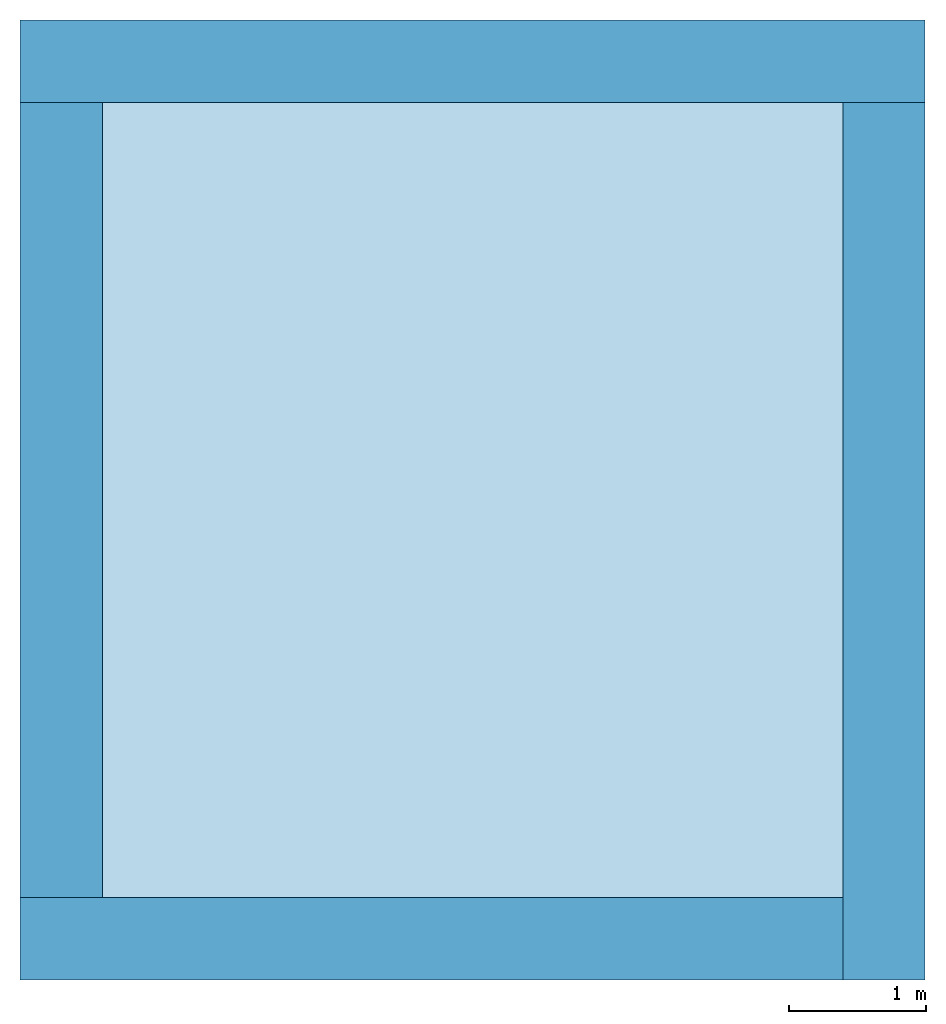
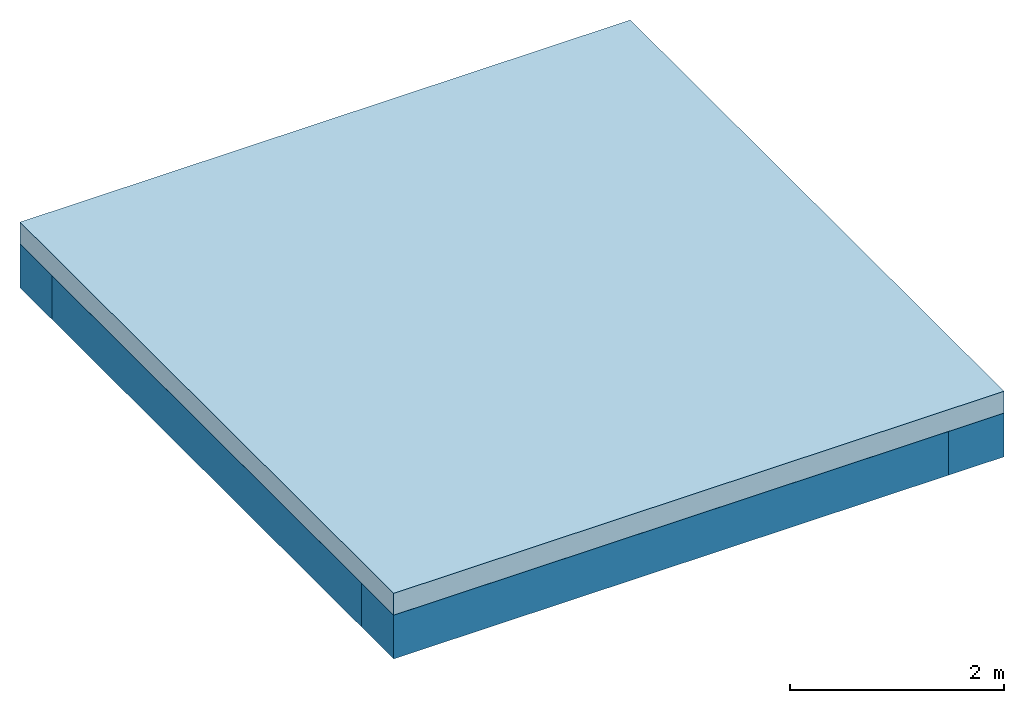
# One storey: 4 walls, 1 slab.
"""IFC2X3 building model written with IfcOpenShell, lengths in metres."""

import ifcopenshell
import ifcopenshell.guid

model = None  # the IFC model being written
_history = None  # IfcOwnerHistory: only IFC2X3 demands one
_inside = {}  # id of a spatial element -> (the spatial element, [elements in it])
_under = {}  # id of a project, library or spatial element -> (it, [spatial elements below it])
_declared = {}  # id of a project -> (the project, [libraries it declares])
_typed = {}  # id of a type object -> (the type object, [elements of that type])
_made_of = {}  # id of a material, layer set ... -> (it, [elements and type objects made of it])


def new_model(schema):
    """Start an empty IFC model of exactly this schema.

    Asked for "IFC4X3", IfcOpenShell would pick the latest addendum, in which some entities
    have other attributes; the version numbers below select the first issue.
    IFC2X3 requires an IfcOwnerHistory on every rooted entity: one is made here for all.
    """
    global model, _history
    if schema == "IFC4X3":
        model = ifcopenshell.file(schema_version=(4, 3, 0, 0))
    else:
        model = ifcopenshell.file(schema=schema)
    _inside.clear()
    _under.clear()
    _declared.clear()
    _typed.clear()
    _made_of.clear()
    _history = None
    if model.schema == "IFC2X3":
        org = make("IfcOrganization", Name="unknown")
        user = make(
            "IfcPersonAndOrganization",
            ThePerson=make("IfcPerson", FamilyName="unknown"),
            TheOrganization=org,
        )
        app = make(
            "IfcApplication",
            ApplicationDeveloper=org,
            Version="unknown",
            ApplicationFullName="unknown",
            ApplicationIdentifier="unknown",
        )
        _history = make(
            "IfcOwnerHistory",
            OwningUser=user,
            OwningApplication=app,
            ChangeAction="ADDED",
            CreationDate=0,
        )
    return model


def make(cls, **values):
    """One entity of the class cls with the attributes given. An attribute that is None is left unset."""
    return model.create_entity(
        cls, **{name: value for name, value in values.items() if value is not None}
    )


def entity(cls, *values):
    """Any entity or typed value of the class cls, its attributes in the order of the schema. None: left unset."""
    e = model.create_entity(cls)
    for i, value in enumerate(values):
        if value is not None:
            e[i] = value
    return e


def rooted(cls, **values):
    """An entity with a GlobalId (a new one), such as an element, a storey or a relation."""
    return make(cls, GlobalId=ifcopenshell.guid.new(), OwnerHistory=_history, **values)


def si_unit(unit_type, name, prefix=None):
    """IfcSIUnit, for example si_unit("LENGTHUNIT", "METRE", prefix="MILLI")."""
    return make("IfcSIUnit", UnitType=unit_type, Prefix=prefix, Name=name)


def converted_unit(unit_type, name, factor, base, dimensions=None, offset=None):
    """IfcConversionBasedUnit, such as the inch: factor (a typed value) times the base unit."""
    return make(
        "IfcConversionBasedUnit"
        if offset is None
        else "IfcConversionBasedUnitWithOffset",
        ConversionOffset=offset,
        Dimensions=None
        if dimensions is None
        else entity("IfcDimensionalExponents", *dimensions),
        UnitType=unit_type,
        Name=name,
        ConversionFactor=make(
            "IfcMeasureWithUnit", ValueComponent=factor, UnitComponent=base
        ),
    )


def derived_unit(unit_type, elements):
    """IfcDerivedUnit: a product of units, each with its exponent."""
    return make(
        "IfcDerivedUnit",
        Elements=[
            make("IfcDerivedUnitElement", Unit=unit, Exponent=power)
            for unit, power in elements
        ],
        UnitType=unit_type,
    )


def assignment(units):
    """IfcUnitAssignment: the units of a project."""
    return None if units is None else make("IfcUnitAssignment", Units=units)


def point(xyz):
    """IfcCartesianPoint."""
    return None if xyz is None else make("IfcCartesianPoint", Coordinates=xyz)


def direction(xyz):
    """IfcDirection."""
    return None if xyz is None else make("IfcDirection", DirectionRatios=xyz)


def frame(location, z_axis=None, x_axis=None):
    """IfcAxis2Placement3D, a coordinate frame: its origin and axes. An axis left out is left unset."""
    return make(
        "IfcAxis2Placement3D",
        Location=point(location),
        Axis=direction(z_axis),
        RefDirection=direction(x_axis),
    )


def frame_2d(location, x_axis=None):
    """IfcAxis2Placement2D, a coordinate frame in the plane: its origin and x axis."""
    return make(
        "IfcAxis2Placement2D", Location=point(location), RefDirection=direction(x_axis)
    )


def origin():
    """The frame at (0, 0, 0) with its axes left unset."""
    return frame((0.0, 0.0, 0.0))


def place(relative_to, where):
    """IfcLocalPlacement: puts the frame where relative to a parent placement (None: the world)."""
    return make(
        "IfcLocalPlacement", PlacementRelTo=relative_to, RelativePlacement=where
    )


def context(
    kind, dimensions, precision=None, world=None, true_north=None, identifier=None
):
    """IfcGeometricRepresentationContext, for example the 3D "Model" context."""
    return make(
        "IfcGeometricRepresentationContext",
        ContextIdentifier=identifier,
        ContextType=kind,
        CoordinateSpaceDimension=dimensions,
        Precision=precision,
        WorldCoordinateSystem=world,
        TrueNorth=true_north,
    )


def subcontext(parent, identifier, kind, view, scale=None):
    """IfcGeometricRepresentationSubContext, for example "Body" below "Model"."""
    return make(
        "IfcGeometricRepresentationSubContext",
        ContextIdentifier=identifier,
        ContextType=kind,
        ParentContext=parent,
        TargetScale=scale,
        TargetView=view,
    )


def project(units=None, contexts=None):
    """IfcProject with its units and contexts."""
    return rooted(
        "IfcProject",
        Name="project",
        RepresentationContexts=contexts,
        UnitsInContext=assignment(units),
    )


def spatial(cls, under=None, at=None, **own):
    """A site, building, storey or space (cls), placed at a placement, below another one or the project."""
    s = rooted(cls, ObjectPlacement=at, **own)
    if under is not None:
        _under.setdefault(under.id(), (under, []))[1].append(s)
    return s


def profile(cls, at=None, kind="AREA", **sizes):
    """A parametric profile (cls). Its sizes go by their IFC names, for example OverallWidth=200.0."""
    return make(cls, ProfileType=kind, Position=at, **sizes)


def rectangle(**sizes):
    """IfcRectangleProfileDef."""
    return profile("IfcRectangleProfileDef", **sizes)


def extrude(swept, where, along, depth):
    """IfcExtrudedAreaSolid: the profile swept, set in the frame where, extruded along a direction by depth."""
    return make(
        "IfcExtrudedAreaSolid",
        SweptArea=swept,
        Position=where,
        ExtrudedDirection=direction(along),
        Depth=depth,
    )


def shape(context_of_items, identifier, shape_type, items):
    """IfcShapeRepresentation: the items that make up one representation, for example the "Body"."""
    return make(
        "IfcShapeRepresentation",
        ContextOfItems=context_of_items,
        RepresentationIdentifier=identifier,
        RepresentationType=shape_type,
        Items=items,
    )


def material(Name=None, Category=None):
    """IfcMaterial."""
    return make("IfcMaterial", Name=Name, Category=Category)


def layer(
    of_material, thickness, ventilated=None, Name=None, Category=None, Priority=None
):
    """IfcMaterialLayer: one layer of a wall or slab, of a material (None: an air gap)."""
    return make(
        "IfcMaterialLayer",
        Material=of_material,
        LayerThickness=thickness,
        IsVentilated=ventilated,
        Name=Name,
        Category=Category,
        Priority=Priority,
    )


def layer_set(layers, Name=None):
    """IfcMaterialLayerSet."""
    return make("IfcMaterialLayerSet", MaterialLayers=layers, LayerSetName=Name)


def layer_usage(for_layer_set, set_direction, sense, offset, extent=None):
    """IfcMaterialLayerSetUsage: how a layer set lies in its element."""
    return make(
        "IfcMaterialLayerSetUsage",
        ForLayerSet=for_layer_set,
        LayerSetDirection=set_direction,
        DirectionSense=sense,
        OffsetFromReferenceLine=offset,
        ReferenceExtent=extent,
    )


def made_of(thing, what):
    """Note that an element or type object is made of a material, layer set ...; save() writes the relation."""
    if what is not None:
        _made_of.setdefault(what.id(), (what, []))[1].append(thing)
    return thing


def type_object(cls, material=None, **own):
    """A type object (cls), such as IfcWallType, which elements share."""
    return made_of(rooted(cls, **own), material)


def element(
    cls,
    number,
    at=None,
    inside=None,
    cuts=None,
    type_object=None,
    material=None,
    context=None,
    identifier="Body",
    shape_type=None,
    held_by="IfcProductDefinitionShape",
    body=None,
    shapes=None,
    **own,
):
    """One element of the class cls, such as IfcWall. Its Tag is "e" and its number.

    at: its placement. inside: the storey or other place that contains it. cuts: it is an
    opening in that element (IfcRelVoidsElement). A single representation is given by context,
    identifier, shape_type and body (its items); several are given by shapes. held_by: the class
    of the entity that holds the representations. save() writes the other relations.
    """
    e = rooted(cls, Tag="e%d" % number, ObjectPlacement=at, **own)
    if body is not None:
        shapes = [shape(context, identifier, shape_type, body)]
    if shapes is not None:
        e.Representation = make(held_by, Representations=shapes)
    if inside is not None:
        _inside.setdefault(inside.id(), (inside, []))[1].append(e)
    if cuts is not None:
        rooted(
            "IfcRelVoidsElement", RelatingBuildingElement=cuts, RelatedOpeningElement=e
        )
    if type_object is not None:
        _typed.setdefault(type_object.id(), (type_object, []))[1].append(e)
    return made_of(e, material)


def aggregate(whole, parts):
    """IfcRelAggregates: a whole, such as a stair, and the parts it consists of."""
    return rooted("IfcRelAggregates", RelatingObject=whole, RelatedObjects=parts)


def save(model, path):
    """Write the relations noted so far, then the file.

    IfcRelAggregates (storeys below a building ...), IfcRelContainedInSpatialStructure (elements
    in a storey), IfcRelDefinesByType, IfcRelAssociatesMaterial and IfcRelDeclares: one each for
    every whole, place, type object, material and project.
    """
    for whole, parts in _under.values():
        aggregate(whole, parts)
    for where, things in _inside.values():
        rooted(
            "IfcRelContainedInSpatialStructure",
            RelatedElements=things,
            RelatingStructure=where,
        )
    for kind, things in _typed.values():
        rooted("IfcRelDefinesByType", RelatedObjects=things, RelatingType=kind)
    for what, things in _made_of.values():
        rooted("IfcRelAssociatesMaterial", RelatedObjects=things, RelatingMaterial=what)
    for by, libraries in _declared.values():
        rooted("IfcRelDeclares", RelatingContext=by, RelatedDefinitions=libraries)
    model.write(path)


model = new_model("IFC2X3")

# Units and contexts
model_context = context("Model", 3, precision=1e-05, world=origin(), true_north=direction((6.12303176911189e-17, 1.0)))
body_context = subcontext(model_context, "Body", "Model", "MODEL_VIEW")
ifc_project = project(units=[si_unit("LENGTHUNIT", "METRE"), si_unit("AREAUNIT", "SQUARE_METRE"), si_unit("VOLUMEUNIT", "CUBIC_METRE"), converted_unit("PLANEANGLEUNIT", "DEGREE", entity("IfcRatioMeasure", 0.0174532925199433), si_unit("PLANEANGLEUNIT", "RADIAN"), dimensions=[0, 0, 0, 0, 0, 0, 0]), si_unit("MASSUNIT", "GRAM", prefix="KILO"), si_unit("TIMEUNIT", "SECOND"), si_unit("FREQUENCYUNIT", "HERTZ"), si_unit("THERMODYNAMICTEMPERATUREUNIT", "DEGREE_CELSIUS"), derived_unit("THERMALTRANSMITTANCEUNIT", [(si_unit("MASSUNIT", "GRAM", prefix="KILO"), 1), (si_unit("THERMODYNAMICTEMPERATUREUNIT", "KELVIN"), -1), (si_unit("TIMEUNIT", "SECOND"), -3)]), derived_unit("VOLUMETRICFLOWRATEUNIT", [(si_unit("LENGTHUNIT", "METRE"), 3), (si_unit("TIMEUNIT", "SECOND"), -1)]), si_unit("ELECTRICCURRENTUNIT", "AMPERE"), si_unit("ELECTRICVOLTAGEUNIT", "VOLT"), si_unit("POWERUNIT", "WATT"), si_unit("FORCEUNIT", "NEWTON", prefix="KILO"), si_unit("ILLUMINANCEUNIT", "LUX"), si_unit("LUMINOUSFLUXUNIT", "LUMEN"), si_unit("LUMINOUSINTENSITYUNIT", "CANDELA"), derived_unit("USERDEFINED", [(si_unit("MASSUNIT", "GRAM", prefix="KILO"), -1), (si_unit("LENGTHUNIT", "METRE"), -2), (si_unit("TIMEUNIT", "SECOND"), 3), (si_unit("LUMINOUSFLUXUNIT", "LUMEN"), 1)]), derived_unit("LINEARVELOCITYUNIT", [(si_unit("LENGTHUNIT", "METRE"), 1), (si_unit("TIMEUNIT", "SECOND"), -1)]), si_unit("PRESSUREUNIT", "PASCAL"), derived_unit("USERDEFINED", [(si_unit("LENGTHUNIT", "METRE"), -2), (si_unit("MASSUNIT", "GRAM", prefix="KILO"), 1), (si_unit("TIMEUNIT", "SECOND"), -2)])], contexts=[model_context])

# Site, building, storey
site_placement = place(None, origin())
site = spatial("IfcSite", under=ifc_project, at=site_placement, Name="Surface", CompositionType="ELEMENT")
building_placement = place(site_placement, origin())
building = spatial("IfcBuilding", under=site, at=building_placement, CompositionType="ELEMENT")
storey_placement = place(building_placement, frame((0.0, 0.0, -0.75)))
storey = spatial("IfcBuildingStorey", under=building, at=storey_placement, Name="Plan de soubassement", CompositionType="ELEMENT", Elevation=-0.75)

# Slab
ifc_material_1 = material(Name="Maçonnerie - Béton")
ifc_layer_1 = layer(ifc_material_1, 0.25)
ifc_layer_set_1 = layer_set([ifc_layer_1], Name="Sol:Dalle en béton - 250 mm")
ifc_layer_usage_1 = layer_usage(ifc_layer_set_1, "AXIS3", "POSITIVE", 0.0)
slab_placement = place(storey_placement, origin())
element("IfcSlab", 1, at=slab_placement, inside=storey, material=ifc_layer_usage_1, Name="Sol:Dalle en béton - 250 mm", ObjectType="Sol:Dalle en béton - 250 mm", PredefinedType="FLOOR", context=body_context, shape_type="SweptSolid", body=[
    extrude(rectangle(XDim=6.99999999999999, YDim=6.6, at=frame_2d((3.33066907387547e-15, 3.77475828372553e-15), x_axis=(1.0, 0.0))), frame((-6.62801835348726, -0.804867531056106, 0.75), z_axis=(0.0, 0.0, -1.0), x_axis=(0.0, 1.0, 0.0)), (0.0, 0.0, 1.0), 0.25),
])

# Walls
ifc_material_2 = material(Name="FONDATIONS")
ifc_layer_2 = layer(ifc_material_2, 0.6)
ifc_layer_set_2 = layer_set([ifc_layer_2], Name="Mur de base:fond 60 cm")
ifc_layer_usage_2 = layer_usage(ifc_layer_set_2, "AXIS2", "NEGATIVE", 0.3)
wall_type = type_object("IfcWallType", Name="Mur de base:fond 60 cm", PredefinedType="STANDARD", material=ifc_layer_set_2)
wall_1_placement = place(storey_placement, frame((-9.92801835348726, 2.3951324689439, 0.0)))
element("IfcWallStandardCase", 2, at=wall_1_placement, inside=storey, type_object=wall_type, material=ifc_layer_usage_2, Name="Mur de base:fond 60 cm", ObjectType="Mur de base:fond 60 cm", context=body_context, shape_type="SweptSolid", body=[
    extrude(rectangle(XDim=6.60000000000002, YDim=0.6, at=frame_2d((3.30000000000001, 0.0), x_axis=(-1.0, 0.0))), origin(), (0.0, 0.0, 1.0), 0.5),
])
ifc_layer_usage_3 = layer_usage(ifc_layer_set_2, "AXIS2", "NEGATIVE", 0.3)
wall_2_placement = place(storey_placement, frame((-3.62801835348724, 2.09513246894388, 0.0), z_axis=(0.0, 0.0, 1.0), x_axis=(0.0, -1.0, 0.0)))
element("IfcWallStandardCase", 3, at=wall_2_placement, inside=storey, type_object=wall_type, material=ifc_layer_usage_3, Name="Mur de base:fond 60 cm", ObjectType="Mur de base:fond 60 cm", context=body_context, shape_type="SweptSolid", body=[
    extrude(rectangle(XDim=6.4, YDim=0.6, at=frame_2d((3.2, 2.77555756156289e-17), x_axis=(-1.0, 0.0))), origin(), (0.0, 0.0, 1.0), 0.5),
])
ifc_layer_usage_4 = layer_usage(ifc_layer_set_2, "AXIS2", "NEGATIVE", 0.3)
wall_3_placement = place(storey_placement, frame((-3.92801835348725, -4.00486753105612, 0.0), z_axis=(0.0, 0.0, 1.0), x_axis=(-1.0, 0.0, 0.0)))
element("IfcWallStandardCase", 4, at=wall_3_placement, inside=storey, type_object=wall_type, material=ifc_layer_usage_4, Name="Mur de base:fond 60 cm", ObjectType="Mur de base:fond 60 cm", context=body_context, shape_type="SweptSolid", body=[
    extrude(rectangle(XDim=6.00000000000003, YDim=0.6, at=frame_2d((3.00000000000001, 1.11022302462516e-16), x_axis=(-1.0, 0.0))), origin(), (0.0, 0.0, 1.0), 0.5),
])
ifc_layer_usage_5 = layer_usage(ifc_layer_set_2, "AXIS2", "NEGATIVE", 0.3)
wall_4_placement = place(storey_placement, frame((-9.62801835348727, -3.7048675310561, 0.0), z_axis=(0.0, 0.0, 1.0), x_axis=(0.0, 1.0, 0.0)))
element("IfcWallStandardCase", 5, at=wall_4_placement, inside=storey, type_object=wall_type, material=ifc_layer_usage_5, Name="Mur de base:fond 60 cm", ObjectType="Mur de base:fond 60 cm", context=body_context, shape_type="SweptSolid", body=[
    extrude(rectangle(XDim=5.8, YDim=0.600000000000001, at=frame_2d((2.9, 1.38777878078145e-16), x_axis=(-1.0, 0.0))), origin(), (0.0, 0.0, 1.0), 0.5),
])

save(model, "model.ifc")
